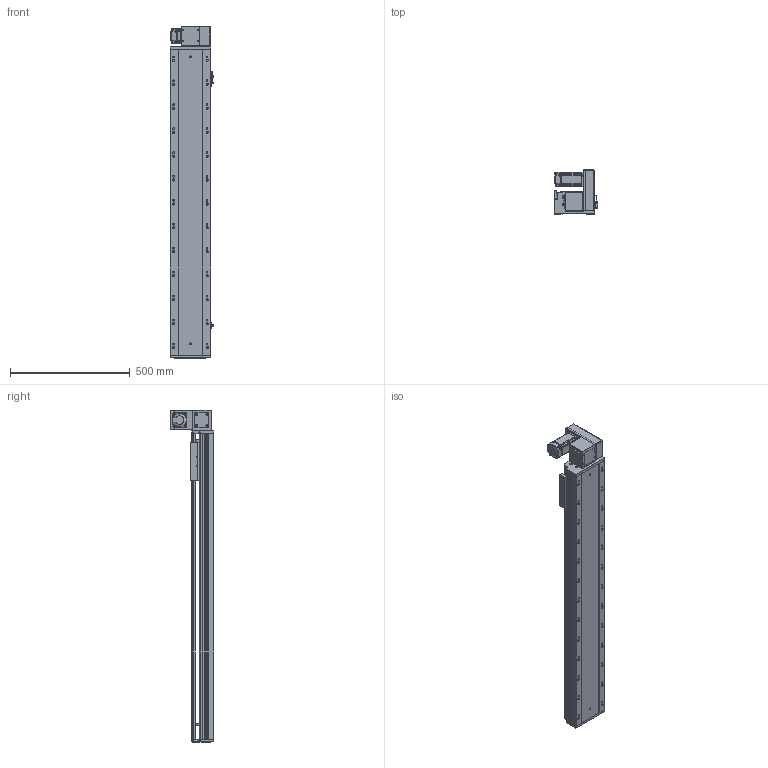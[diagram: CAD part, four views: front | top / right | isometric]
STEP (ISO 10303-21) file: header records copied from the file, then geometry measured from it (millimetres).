
FILE_DESCRIPTION (( 'STEP AP203' ), '1' );
FILE_NAME ('RY170-T-300-UR-P400W.SLDASM_1000.step', '2021-03-01T09:26:28', ( '盈信电脑' ), ( '东莞市道滘镇水果街19号' ), 'SwSTEP 2.0', 'SolidWorks 2012', '' );
FILE_SCHEMA (( 'CONFIG_CONTROL_DESIGN' ));
Products named in the file (18): 15; RY170-T-300-UR-P400W.SLDASM_1000; RY170-T蹟翐M4; RY170-T肮祭謫裔啣; 滅袉蝶18-10; RY120-T主同步轮轴承压盖; RY170-T肮祭湍揤踡輸1; RY170肮祭謫萇儂欶; RY170-T肮祭湍揤踡輸2; RY170外置感应片(200共用）; RY170肮祭謫ヶ裔啣; RY170同步轮电机安装板(400W); RY170翋肮祭謫釱; 覜茼ん672; RY170-T-300肮祭謫倰第裔啣-DR_1000; RY170綴裔啣; RY170-T-300肮祭謫倰第菁釱-DR_1000; RY170肮祭湍臏賑輸
Assembly tree (22 placements, depth 2):
  RY170-T-300-UR-P400W.SLDASM_1000
    RY170-T-300肮祭謫倰第菁釱-DR_1000
    RY170肮祭湍臏賑輸
    RY170-T-300肮祭謫倰第裔啣-DR_1000
    RY170綴裔啣
    覜茼ん672  x3
    RY170外置感应片(200共用）
    RY170肮祭謫ヶ裔啣
    RY170翋肮祭謫釱
    RY170同步轮电机安装板(400W)
    RY170肮祭謫萇儂欶
    RY170-T肮祭湍揤踡輸1  x2
    RY170-T肮祭湍揤踡輸2  x2
    RY120-T主同步轮轴承压盖
    RY170-T肮祭謫裔啣
    RY170-T蹟翐M4
    滅袉蝶18-10  x2
    15
Bounding box: 183.7 x 182 x 1388 mm (x, y, z)
Volume: 6887758.9 mm3; surface area: 2349674.8 mm2
Topology: 22 solids, 22 shells, 2912 faces, 8242 edges, 5303 vertices
Faces by surface type: cylinder 1370, plane 1272, cone 240, bspline 30
Entity records: 89904 total; most frequent: CARTESIAN_POINT 21380, ORIENTED_EDGE 14184, DIRECTION 13590, EDGE_CURVE 7092, AXIS2_PLACEMENT_3D 4803, VERTEX_POINT 4659, LINE 3984, VECTOR 3984
